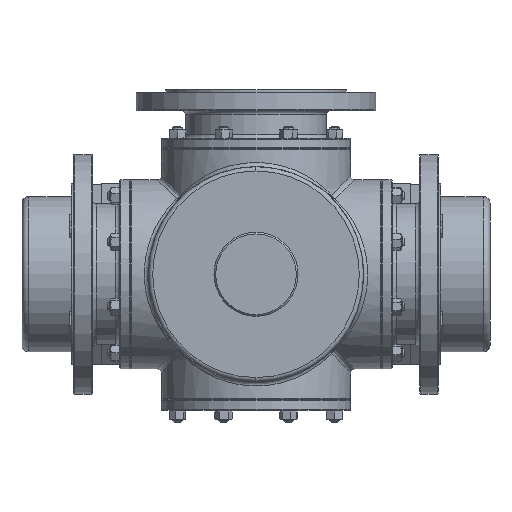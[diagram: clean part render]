
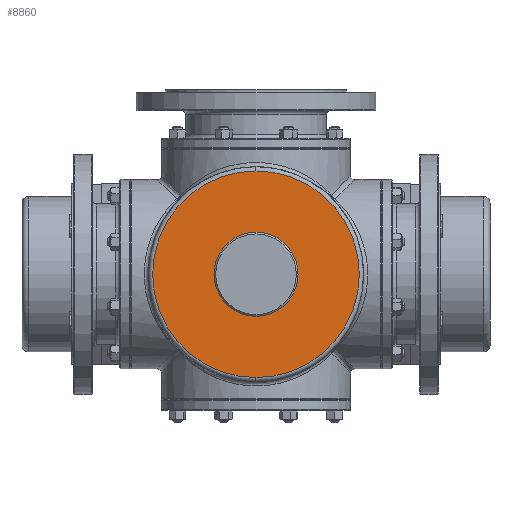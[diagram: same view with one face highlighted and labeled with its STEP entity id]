
A CAD part, front view. The second image highlights one B-rep face of the part: STEP entity #8860.
In plain terms, the highlighted planar face has unit normal (0, -1, 0).
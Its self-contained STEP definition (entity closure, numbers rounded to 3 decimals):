
#219 = CARTESIAN_POINT ( 'NONE',  ( 0., -122.5, -50. ) ) ;
#445 = ORIENTED_EDGE ( 'NONE', *, *, #17242, .T. ) ;
#1768 = DIRECTION ( 'NONE',  ( 0., 1., 0. ) ) ;
#1853 = CARTESIAN_POINT ( 'NONE',  ( 0., -122.5, -123. ) ) ;
#3205 = CARTESIAN_POINT ( 'NONE',  ( 0., -122.5, 0. ) ) ;
#4100 = PLANE ( 'NONE',  #15624 ) ;
#4531 = AXIS2_PLACEMENT_3D ( 'NONE', #3205, #20806, #21020 ) ;
#6570 = CARTESIAN_POINT ( 'NONE',  ( 0., -122.5, 123. ) ) ;
#6802 = CARTESIAN_POINT ( 'NONE',  ( 0., -122.5, 0. ) ) ;
#6897 = FACE_OUTER_BOUND ( 'NONE', #24569, .T. ) ;
#7168 = DIRECTION ( 'NONE',  ( 0., 0., 1. ) ) ;
#7387 = CIRCLE ( 'NONE', #15200, 50. ) ;
#7876 = ORIENTED_EDGE ( 'NONE', *, *, #17553, .T. ) ;
#8508 = CIRCLE ( 'NONE', #4531, 123. ) ;
#8860 = ADVANCED_FACE ( 'NONE', ( #6897, #20077 ), #4100, .F. ) ;
#9196 = VERTEX_POINT ( 'NONE', #6570 ) ;
#9216 = EDGE_CURVE ( 'NONE', #16563, #24448, #20466, .T. ) ;
#11504 = CIRCLE ( 'NONE', #14752, 123. ) ;
#11785 = CARTESIAN_POINT ( 'NONE',  ( 0., -122.5, 0. ) ) ;
#11901 = DIRECTION ( 'NONE',  ( 0., 0., 1. ) ) ;
#11999 = ORIENTED_EDGE ( 'NONE', *, *, #24510, .T. ) ;
#12226 = DIRECTION ( 'NONE',  ( 0., 1., 0. ) ) ;
#13491 = CARTESIAN_POINT ( 'NONE',  ( 0., -122.5, 50. ) ) ;
#14752 = AXIS2_PLACEMENT_3D ( 'NONE', #28918, #21259, #19163 ) ;
#15200 = AXIS2_PLACEMENT_3D ( 'NONE', #27784, #12226, #7168 ) ;
#15624 = AXIS2_PLACEMENT_3D ( 'NONE', #11785, #26902, #11901 ) ;
#16563 = VERTEX_POINT ( 'NONE', #13491 ) ;
#17242 = EDGE_CURVE ( 'NONE', #9196, #18529, #11504, .T. ) ;
#17553 = EDGE_CURVE ( 'NONE', #24448, #16563, #7387, .T. ) ;
#18163 = AXIS2_PLACEMENT_3D ( 'NONE', #6802, #1768, #24543 ) ;
#18529 = VERTEX_POINT ( 'NONE', #1853 ) ;
#19163 = DIRECTION ( 'NONE',  ( 0., 0., 1. ) ) ;
#20077 = FACE_BOUND ( 'NONE', #30724, .T. ) ;
#20466 = CIRCLE ( 'NONE', #18163, 50. ) ;
#20806 = DIRECTION ( 'NONE',  ( 0., -1., 0. ) ) ;
#21020 = DIRECTION ( 'NONE',  ( 0., 0., 1. ) ) ;
#21259 = DIRECTION ( 'NONE',  ( 0., -1., 0. ) ) ;
#24448 = VERTEX_POINT ( 'NONE', #219 ) ;
#24510 = EDGE_CURVE ( 'NONE', #18529, #9196, #8508, .T. ) ;
#24543 = DIRECTION ( 'NONE',  ( 0., 0., 1. ) ) ;
#24569 = EDGE_LOOP ( 'NONE', ( #445, #11999 ) ) ;
#26902 = DIRECTION ( 'NONE',  ( 0., 1., 0. ) ) ;
#27784 = CARTESIAN_POINT ( 'NONE',  ( 0., -122.5, 0. ) ) ;
#28918 = CARTESIAN_POINT ( 'NONE',  ( 0., -122.5, 0. ) ) ;
#30724 = EDGE_LOOP ( 'NONE', ( #31967, #7876 ) ) ;
#31967 = ORIENTED_EDGE ( 'NONE', *, *, #9216, .T. ) ;
